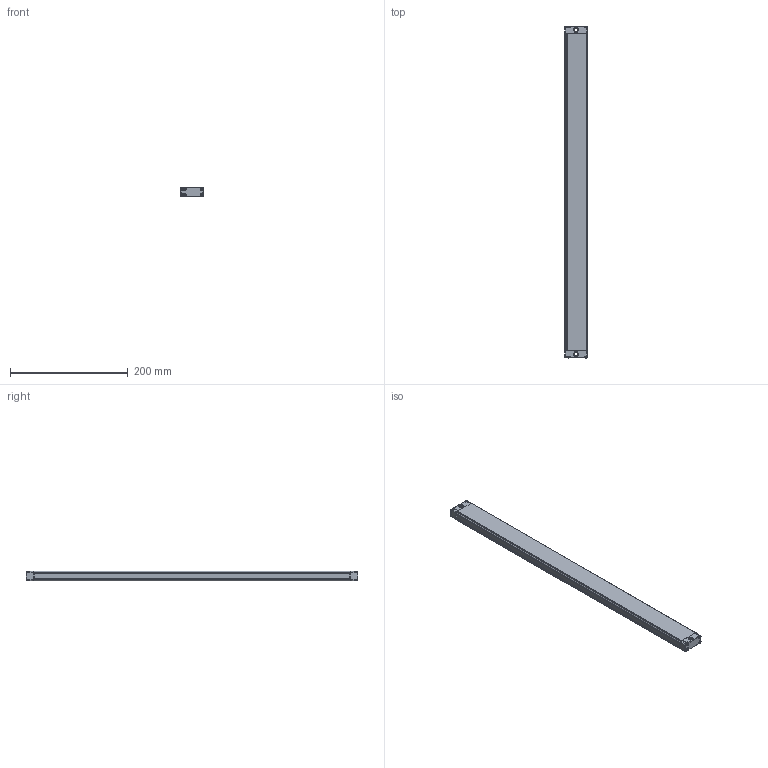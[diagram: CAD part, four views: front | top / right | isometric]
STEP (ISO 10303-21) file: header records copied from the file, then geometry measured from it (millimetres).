
FILE_DESCRIPTION((''),'2;1');
FILE_NAME('EB15--3610_ASM','2021-07-22T11:16:57',('18720616900'),(''),'CREO PARAMETRIC BY PTC INC, 2019010','CREO PARAMETRIC BY PTC INC, 2019010','');
FILE_SCHEMA(('CONFIG_CONTROL_DESIGN'));
Length unit declared in the file: millimetre
Products named in the file (6): EB15-00; EB15-000; EB15-0003; EB15-0004; ST-3-12; EB15--3610_ASM
Assembly tree (12 placements, depth 2):
  EB15--3610_ASM
    EB15-00
    EB15-000
    EB15-0003
    EB15-0004
    ST-3-12  x8
Bounding box: 39.15 x 565 x 15.8 mm (x, y, z)
Volume: 339229.3 mm3; surface area: 84864.5 mm2
Topology: 12 solids, 12 shells, 827 faces, 2188 edges, 1368 vertices
Faces by surface type: plane 242, bspline 188, cone 176, cylinder 165, torus 40, sphere 16
Entity records: 16044 total; most frequent: CARTESIAN_POINT 7660, ORIENTED_EDGE 1804, DIRECTION 1603, EDGE_CURVE 902, AXIS2_PLACEMENT_3D 577, VERTEX_POINT 563, VECTOR 449, LINE 449
